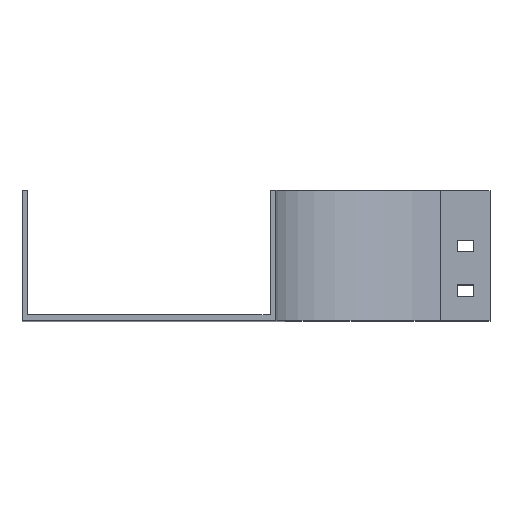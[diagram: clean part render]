
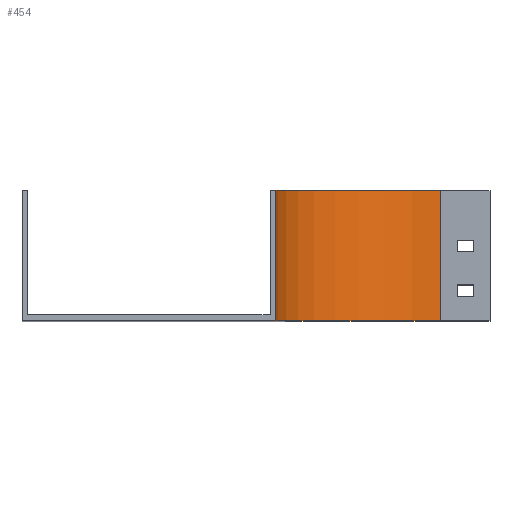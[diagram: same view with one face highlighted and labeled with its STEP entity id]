
A CAD part, top view. The second image highlights one B-rep face of the part: STEP entity #454.
In plain terms, the highlighted cylindrical face has radius 100 mm (diameter 200 mm), a partial arc.
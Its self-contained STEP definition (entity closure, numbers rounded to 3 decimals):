
#113 = DIRECTION ( 'NONE',  ( 0., -1., 0. ) ) ;
#141 = CARTESIAN_POINT ( 'NONE',  ( 0., 0., 0. ) ) ;
#315 = EDGE_LOOP ( 'NONE', ( #1467, #1171, #1228, #1005 ) ) ;
#359 = DIRECTION ( 'NONE',  ( 0., -1., 0. ) ) ;
#454 = ADVANCED_FACE ( 'NONE', ( #2665 ), #2246, .F. ) ;
#522 = CARTESIAN_POINT ( 'NONE',  ( -100., 79., 0. ) ) ;
#546 = CARTESIAN_POINT ( 'NONE',  ( -100., 0., 0. ) ) ;
#574 = DIRECTION ( 'NONE',  ( 0., 0., -1. ) ) ;
#581 = EDGE_CURVE ( 'NONE', #1876, #2751, #734, .T. ) ;
#731 = LINE ( 'NONE', #522, #1329 ) ;
#734 = CIRCLE ( 'NONE', #2193, 100. ) ;
#762 = DIRECTION ( 'NONE',  ( 0., -1., 0. ) ) ;
#903 = CARTESIAN_POINT ( 'NONE',  ( 0., 79., 0. ) ) ;
#1005 = ORIENTED_EDGE ( 'NONE', *, *, #2045, .T. ) ;
#1155 = DIRECTION ( 'NONE',  ( 0., 0., -1. ) ) ;
#1171 = ORIENTED_EDGE ( 'NONE', *, *, #1223, .F. ) ;
#1203 = CARTESIAN_POINT ( 'NONE',  ( 0., 79., -100. ) ) ;
#1223 = EDGE_CURVE ( 'NONE', #2751, #2586, #2497, .T. ) ;
#1228 = ORIENTED_EDGE ( 'NONE', *, *, #581, .F. ) ;
#1329 = VECTOR ( 'NONE', #2216, 1000. ) ;
#1467 = ORIENTED_EDGE ( 'NONE', *, *, #2129, .T. ) ;
#1731 = CARTESIAN_POINT ( 'NONE',  ( -100., 79., 0. ) ) ;
#1848 = CARTESIAN_POINT ( 'NONE',  ( 0., 79., 0. ) ) ;
#1876 = VERTEX_POINT ( 'NONE', #1731 ) ;
#1903 = VECTOR ( 'NONE', #359, 1000. ) ;
#1985 = DIRECTION ( 'NONE',  ( 0., -1., 0. ) ) ;
#2045 = EDGE_CURVE ( 'NONE', #1876, #2130, #731, .T. ) ;
#2129 = EDGE_CURVE ( 'NONE', #2130, #2586, #2443, .T. ) ;
#2130 = VERTEX_POINT ( 'NONE', #546 ) ;
#2193 = AXIS2_PLACEMENT_3D ( 'NONE', #903, #1985, #2631 ) ;
#2216 = DIRECTION ( 'NONE',  ( 0., -1., 0. ) ) ;
#2246 = CYLINDRICAL_SURFACE ( 'NONE', #2595, 100. ) ;
#2261 = CARTESIAN_POINT ( 'NONE',  ( 0., 79., -100. ) ) ;
#2418 = AXIS2_PLACEMENT_3D ( 'NONE', #141, #762, #574 ) ;
#2443 = CIRCLE ( 'NONE', #2418, 100. ) ;
#2497 = LINE ( 'NONE', #2261, #1903 ) ;
#2563 = CARTESIAN_POINT ( 'NONE',  ( 0., 0., -100. ) ) ;
#2586 = VERTEX_POINT ( 'NONE', #2563 ) ;
#2595 = AXIS2_PLACEMENT_3D ( 'NONE', #1848, #113, #1155 ) ;
#2631 = DIRECTION ( 'NONE',  ( 0., 0., -1. ) ) ;
#2665 = FACE_OUTER_BOUND ( 'NONE', #315, .T. ) ;
#2751 = VERTEX_POINT ( 'NONE', #1203 ) ;
